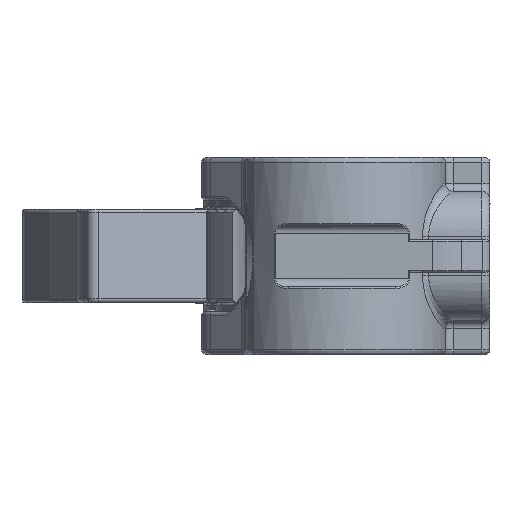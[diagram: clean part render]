
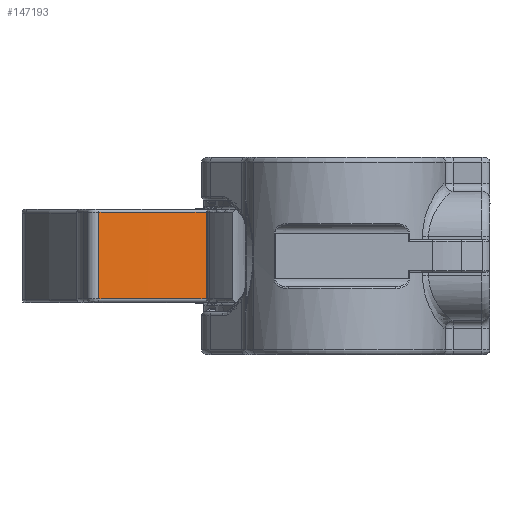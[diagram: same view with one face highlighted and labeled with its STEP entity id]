
A CAD part, left-side view. The second image highlights one B-rep face of the part: STEP entity #147193.
In plain terms, the highlighted cylindrical face has radius 43.466 mm (diameter 86.932 mm), a partial arc.
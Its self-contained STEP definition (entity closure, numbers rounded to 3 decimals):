
#53535=CARTESIAN_POINT('',(-90.853,4.587,
-3.797));
#53546=CARTESIAN_POINT('',(-90.853,4.587,
3.843));
#53575=DIRECTION('',(0.,0.,1.));
#53576=VECTOR('',#53575,5.35);
#53577=CARTESIAN_POINT('',(-95.35,14.996,-2.65));
#53578=LINE('',#53577,#53576);
#53582=CARTESIAN_POINT('',(-132.662,-7.301,2.7));
#53583=DIRECTION('',(0.,0.,1.));
#53584=DIRECTION('',(0.956,0.294,0.));
#53585=AXIS2_PLACEMENT_3D('',#53582,#53583,#53584);
#53590=CARTESIAN_POINT('',(-90.999,5.088,
3.065));
#53591=CARTESIAN_POINT('',(-91.,5.093,
3.014));
#53592=CARTESIAN_POINT('',(-91.008,5.118,
2.92));
#53593=CARTESIAN_POINT('',(-91.033,5.205,
2.798));
#53594=CARTESIAN_POINT('',(-91.071,5.329,
2.719));
#53595=CARTESIAN_POINT('',(-91.099,5.421,
2.7));
#53596=CARTESIAN_POINT('',(-91.114,5.47,2.7));
#53601=CARTESIAN_POINT('',(-90.984,5.039,
3.655));
#53602=CARTESIAN_POINT('',(-90.989,5.056,
3.459));
#53603=CARTESIAN_POINT('',(-90.994,5.072,
3.262));
#53604=CARTESIAN_POINT('',(-90.999,5.088,
3.065));
#53609=CARTESIAN_POINT('',(-90.93,4.856,
3.837));
#53610=CARTESIAN_POINT('',(-90.937,4.88,
3.836));
#53611=CARTESIAN_POINT('',(-90.95,4.924,
3.826));
#53612=CARTESIAN_POINT('',(-90.967,4.983,
3.786));
#53613=CARTESIAN_POINT('',(-90.98,5.025,
3.726));
#53614=CARTESIAN_POINT('',(-90.983,5.037,
3.68));
#53615=CARTESIAN_POINT('',(-90.984,5.039,
3.655));
#53620=CARTESIAN_POINT('',(-90.853,4.587,
3.843));
#53621=CARTESIAN_POINT('',(-90.861,4.617,
3.843));
#53622=CARTESIAN_POINT('',(-90.878,4.677,
3.841));
#53623=CARTESIAN_POINT('',(-90.904,4.767,
3.839));
#53624=CARTESIAN_POINT('',(-90.921,4.826,
3.837));
#53625=CARTESIAN_POINT('',(-90.93,4.856,
3.837));
#53630=DIRECTION('',(0.,0.,1.));
#53631=VECTOR('',#53630,7.64);
#53632=CARTESIAN_POINT('',(-90.853,4.587,
-3.797));
#53633=LINE('',#53632,#53631);
#53637=CARTESIAN_POINT('',(-90.853,4.587,
-3.797));
#53638=CARTESIAN_POINT('',(-90.861,4.617,
-3.796));
#53639=CARTESIAN_POINT('',(-90.879,4.678,
-3.795));
#53640=CARTESIAN_POINT('',(-90.905,4.768,
-3.794));
#53641=CARTESIAN_POINT('',(-90.922,4.828,
-3.792));
#53642=CARTESIAN_POINT('',(-90.931,4.858,
-3.792));
#53647=CARTESIAN_POINT('',(-90.931,4.858,
-3.792));
#53648=CARTESIAN_POINT('',(-90.938,4.882,
-3.791));
#53649=CARTESIAN_POINT('',(-90.951,4.926,
-3.778));
#53650=CARTESIAN_POINT('',(-90.966,4.979,
-3.726));
#53651=CARTESIAN_POINT('',(-90.971,4.994,
-3.682));
#53652=CARTESIAN_POINT('',(-90.971,4.996,
-3.656));
#53657=CARTESIAN_POINT('',(-90.971,4.996,
-3.656));
#53658=CARTESIAN_POINT('',(-90.976,5.013,
-3.457));
#53659=CARTESIAN_POINT('',(-90.981,5.029,
-3.259));
#53660=CARTESIAN_POINT('',(-90.986,5.046,
-3.061));
#53665=CARTESIAN_POINT('',(-90.986,5.046,
-3.061));
#53666=CARTESIAN_POINT('',(-90.987,5.051,
-3.003));
#53667=CARTESIAN_POINT('',(-90.996,5.08,
-2.898));
#53668=CARTESIAN_POINT('',(-91.025,5.177,
-2.76));
#53669=CARTESIAN_POINT('',(-91.067,5.317,
-2.671));
#53670=CARTESIAN_POINT('',(-91.099,5.42,
-2.65));
#53671=CARTESIAN_POINT('',(-91.116,5.475,
-2.65));
#53676=CARTESIAN_POINT('',(-132.662,-7.301,-2.65));
#53677=DIRECTION('',(0.,0.,1.));
#53678=DIRECTION('',(0.956,0.294,0.));
#53679=AXIS2_PLACEMENT_3D('',#53676,#53677,#53678);
#65081=CARTESIAN_POINT('',(-95.35,14.996,-2.65));
#65082=VERTEX_POINT('',#65081);
#65085=CARTESIAN_POINT('',(-91.116,5.475,-2.65));
#65086=VERTEX_POINT('',#65085);
#65088=VERTEX_POINT('',#53665);
#65090=VERTEX_POINT('',#53657);
#65093=CARTESIAN_POINT('',(-95.35,14.996,2.7));
#65094=VERTEX_POINT('',#65093);
#65129=CARTESIAN_POINT('',(-91.114,5.47,2.7));
#65130=VERTEX_POINT('',#65129);
#65133=VERTEX_POINT('',#53590);
#65134=VERTEX_POINT('',#53601);
#65976=VERTEX_POINT('',#53535);
#65977=VERTEX_POINT('',#53642);
#65992=VERTEX_POINT('',#53546);
#65994=VERTEX_POINT('',#53625);
#147164=CARTESIAN_POINT('',(-132.662,-7.301,4.05));
#147165=DIRECTION('',(0.,0.,1.));
#147166=DIRECTION('',(0.744,0.668,0.));
#147167=AXIS2_PLACEMENT_3D('',#147164,#147165,#147166);
#147168=CYLINDRICAL_SURFACE('',#147167,43.466);
#147170=ORIENTED_EDGE('',*,*,#147169,.T.);
#147172=ORIENTED_EDGE('',*,*,#147171,.F.);
#147174=ORIENTED_EDGE('',*,*,#147173,.F.);
#147176=ORIENTED_EDGE('',*,*,#147175,.F.);
#147178=ORIENTED_EDGE('',*,*,#147177,.F.);
#147179=ORIENTED_EDGE('',*,*,#147148,.F.);
#147180=ORIENTED_EDGE('',*,*,#146972,.F.);
#147182=ORIENTED_EDGE('',*,*,#147181,.T.);
#147184=ORIENTED_EDGE('',*,*,#147183,.T.);
#147186=ORIENTED_EDGE('',*,*,#147185,.T.);
#147188=ORIENTED_EDGE('',*,*,#147187,.T.);
#147190=ORIENTED_EDGE('',*,*,#147189,.T.);
#147191=EDGE_LOOP('',(#147170,#147172,#147174,#147176,#147178,#147179,#147180,
#147182,#147184,#147186,#147188,#147190));
#147192=FACE_OUTER_BOUND('',#147191,.F.);
#53586=CIRCLE('',#53585,43.466);
#53597=B_SPLINE_CURVE_WITH_KNOTS('',3,(#53590,#53591,#53592,#53593,#53594,
#53595,#53596),.UNSPECIFIED.,.F.,.F.,(4,1,1,1,4),(0.,0.25,0.5,0.75,
1.),.UNSPECIFIED.);
#53605=B_SPLINE_CURVE_WITH_KNOTS('',3,(#53601,#53602,#53603,#53604),
.UNSPECIFIED.,.F.,.F.,(4,4),(0.,1.),.UNSPECIFIED.);
#53616=B_SPLINE_CURVE_WITH_KNOTS('',3,(#53609,#53610,#53611,#53612,#53613,
#53614,#53615),.UNSPECIFIED.,.F.,.F.,(4,1,1,1,4),(0.,0.25,0.5,0.75,
1.),.UNSPECIFIED.);
#53626=B_SPLINE_CURVE_WITH_KNOTS('',3,(#53620,#53621,#53622,#53623,#53624,
#53625),.UNSPECIFIED.,.F.,.F.,(4,1,1,4),(0.,0.333,
0.667,1.),.UNSPECIFIED.);
#53643=B_SPLINE_CURVE_WITH_KNOTS('',3,(#53637,#53638,#53639,#53640,#53641,
#53642),.UNSPECIFIED.,.F.,.F.,(4,1,1,4),(0.,0.333,
0.667,1.),.UNSPECIFIED.);
#53653=B_SPLINE_CURVE_WITH_KNOTS('',3,(#53647,#53648,#53649,#53650,#53651,
#53652),.UNSPECIFIED.,.F.,.F.,(4,1,1,4),(0.,0.333,
0.667,1.),.UNSPECIFIED.);
#53661=B_SPLINE_CURVE_WITH_KNOTS('',3,(#53657,#53658,#53659,#53660),
.UNSPECIFIED.,.F.,.F.,(4,4),(0.,1.),.UNSPECIFIED.);
#53672=B_SPLINE_CURVE_WITH_KNOTS('',3,(#53665,#53666,#53667,#53668,#53669,
#53670,#53671),.UNSPECIFIED.,.F.,.F.,(4,1,1,1,4),(0.,0.25,0.5,0.75,
1.),.UNSPECIFIED.);
#53680=CIRCLE('',#53679,43.466);
#146972=EDGE_CURVE('',#65976,#65992,#53633,.T.);
#147148=EDGE_CURVE('',#65992,#65994,#53626,.T.);
#147169=EDGE_CURVE('',#65082,#65094,#53578,.T.);
#147171=EDGE_CURVE('',#65130,#65094,#53586,.T.);
#147173=EDGE_CURVE('',#65133,#65130,#53597,.T.);
#147175=EDGE_CURVE('',#65134,#65133,#53605,.T.);
#147177=EDGE_CURVE('',#65994,#65134,#53616,.T.);
#147181=EDGE_CURVE('',#65976,#65977,#53643,.T.);
#147183=EDGE_CURVE('',#65977,#65090,#53653,.T.);
#147185=EDGE_CURVE('',#65090,#65088,#53661,.T.);
#147187=EDGE_CURVE('',#65088,#65086,#53672,.T.);
#147189=EDGE_CURVE('',#65086,#65082,#53680,.T.);
#147193=ADVANCED_FACE('',(#147192),#147168,.F.);
